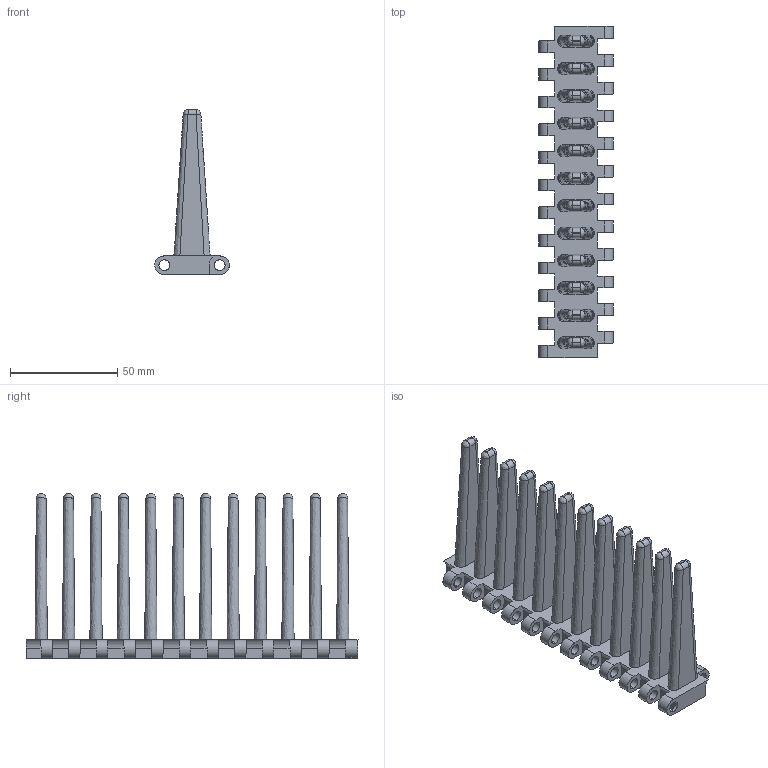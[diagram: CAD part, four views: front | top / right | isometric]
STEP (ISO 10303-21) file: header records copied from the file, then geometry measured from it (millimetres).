
FILE_DESCRIPTION (( 'STEP AP203' ), '1' );
FILE_NAME ('25.4 TARAKLI 75MM.STEP', '2025-01-13T07:19:55', ( '' ), ( '' ), 'SwSTEP 2.0', 'SolidWorks 2021', '' );
FILE_SCHEMA (( 'CONFIG_CONTROL_DESIGN' ));
Length unit declared in the file: millimetre
Products named in the file (1): 25.4 TARAKLI 75MM
Bounding box: 34.81 x 154.99 x 77 mm (x, y, z)
Volume: 67577.7 mm3; surface area: 43905.9 mm2
Topology: 13 solids, 13 shells, 411 faces, 1065 edges, 694 vertices
Faces by surface type: plane 228, cylinder 120, bspline 48, cone 15
Entity records: 17454 total; most frequent: CARTESIAN_POINT 8315, ORIENTED_EDGE 2130, DIRECTION 1475, EDGE_CURVE 1065, VERTEX_POINT 694, VECTOR 663, LINE 663, EDGE_LOOP 477
